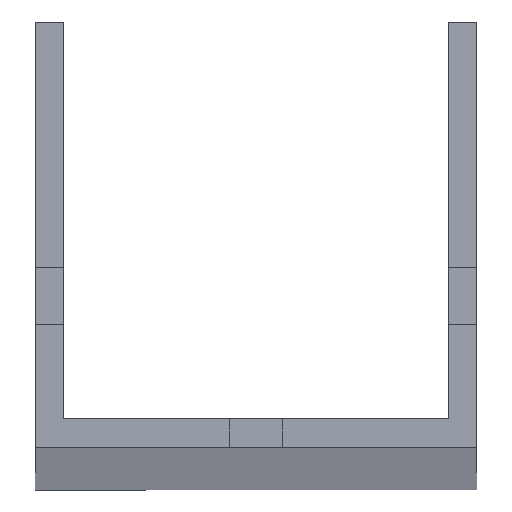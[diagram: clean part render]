
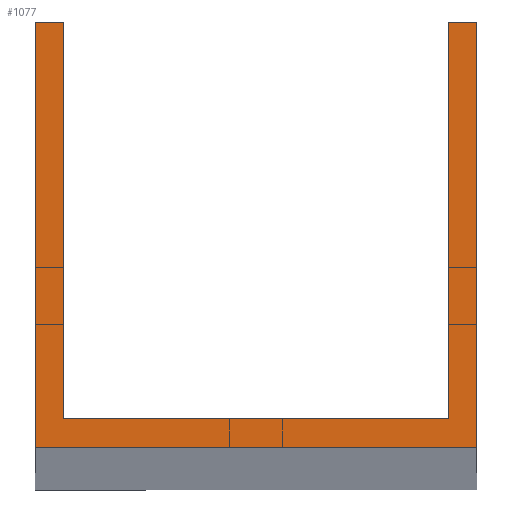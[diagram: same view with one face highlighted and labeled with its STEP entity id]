
A CAD part, top view. The second image highlights one B-rep face of the part: STEP entity #1077.
In plain terms, the highlighted planar face has unit normal (0, 0, 1).
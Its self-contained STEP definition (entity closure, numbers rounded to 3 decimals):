
#37 = VERTEX_POINT ( 'NONE', #747 ) ;
#58 = EDGE_CURVE ( 'NONE', #750, #230, #517, .T. ) ;
#74 = DIRECTION ( 'NONE',  ( 1., 0., 0. ) ) ;
#81 = VECTOR ( 'NONE', #148, 1000. ) ;
#82 = ORIENTED_EDGE ( 'NONE', *, *, #434, .T. ) ;
#94 = EDGE_CURVE ( 'NONE', #252, #937, #367, .T. ) ;
#96 = VERTEX_POINT ( 'NONE', #197 ) ;
#112 = VECTOR ( 'NONE', #1011, 1000. ) ;
#116 = EDGE_CURVE ( 'NONE', #96, #252, #796, .T. ) ;
#144 = ORIENTED_EDGE ( 'NONE', *, *, #668, .T. ) ;
#145 = CARTESIAN_POINT ( 'NONE',  ( 27., 0., 1500. ) ) ;
#148 = DIRECTION ( 'NONE',  ( -1., 0., 0. ) ) ;
#176 = ORIENTED_EDGE ( 'NONE', *, *, #720, .T. ) ;
#188 = FACE_OUTER_BOUND ( 'NONE', #826, .T. ) ;
#197 = CARTESIAN_POINT ( 'NONE',  ( -23.5, 3.5, 1500. ) ) ;
#208 = VERTEX_POINT ( 'NONE', #145 ) ;
#230 = VERTEX_POINT ( 'NONE', #1051 ) ;
#241 = LINE ( 'NONE', #599, #743 ) ;
#245 = ORIENTED_EDGE ( 'NONE', *, *, #58, .T. ) ;
#248 = CARTESIAN_POINT ( 'NONE',  ( -27., 0., 1500. ) ) ;
#252 = VERTEX_POINT ( 'NONE', #704 ) ;
#292 = DIRECTION ( 'NONE',  ( 0., 0., 1. ) ) ;
#308 = CARTESIAN_POINT ( 'NONE',  ( -27., 52., 1500. ) ) ;
#358 = VECTOR ( 'NONE', #804, 1000. ) ;
#359 = VECTOR ( 'NONE', #628, 1000. ) ;
#367 = LINE ( 'NONE', #638, #652 ) ;
#379 = CARTESIAN_POINT ( 'NONE',  ( -27., 3.5, 1500. ) ) ;
#391 = VECTOR ( 'NONE', #792, 1000. ) ;
#434 = EDGE_CURVE ( 'NONE', #1031, #208, #241, .T. ) ;
#468 = DIRECTION ( 'NONE',  ( 0., 1., 0. ) ) ;
#489 = LINE ( 'NONE', #501, #81 ) ;
#501 = CARTESIAN_POINT ( 'NONE',  ( -27., 52., 1500. ) ) ;
#517 = LINE ( 'NONE', #308, #112 ) ;
#546 = CARTESIAN_POINT ( 'NONE',  ( 27., 52., 1500. ) ) ;
#558 = CARTESIAN_POINT ( 'NONE',  ( 0., 0., 1500. ) ) ;
#562 = EDGE_CURVE ( 'NONE', #230, #1031, #736, .T. ) ;
#595 = ORIENTED_EDGE ( 'NONE', *, *, #94, .F. ) ;
#599 = CARTESIAN_POINT ( 'NONE',  ( -27., 0., 1500. ) ) ;
#628 = DIRECTION ( 'NONE',  ( 1., 0., 0. ) ) ;
#635 = CARTESIAN_POINT ( 'NONE',  ( -23.5, 52., 1500. ) ) ;
#638 = CARTESIAN_POINT ( 'NONE',  ( 23.5, 52., 1500. ) ) ;
#652 = VECTOR ( 'NONE', #468, 1000. ) ;
#656 = EDGE_CURVE ( 'NONE', #750, #96, #1082, .T. ) ;
#658 = AXIS2_PLACEMENT_3D ( 'NONE', #558, #292, #801 ) ;
#668 = EDGE_CURVE ( 'NONE', #37, #937, #489, .T. ) ;
#704 = CARTESIAN_POINT ( 'NONE',  ( 23.5, 3.5, 1500. ) ) ;
#720 = EDGE_CURVE ( 'NONE', #208, #37, #1069, .T. ) ;
#729 = PLANE ( 'NONE',  #658 ) ;
#736 = LINE ( 'NONE', #917, #391 ) ;
#743 = VECTOR ( 'NONE', #74, 1000. ) ;
#747 = CARTESIAN_POINT ( 'NONE',  ( 27., 52., 1500. ) ) ;
#750 = VERTEX_POINT ( 'NONE', #635 ) ;
#751 = CARTESIAN_POINT ( 'NONE',  ( -23.5, 52., 1500. ) ) ;
#783 = ORIENTED_EDGE ( 'NONE', *, *, #562, .T. ) ;
#792 = DIRECTION ( 'NONE',  ( 0., -1., 0. ) ) ;
#796 = LINE ( 'NONE', #379, #359 ) ;
#801 = DIRECTION ( 'NONE',  ( 1., 0., 0. ) ) ;
#804 = DIRECTION ( 'NONE',  ( 0., 1., 0. ) ) ;
#814 = VECTOR ( 'NONE', #930, 1000. ) ;
#826 = EDGE_LOOP ( 'NONE', ( #1081, #245, #783, #82, #176, #144, #595, #1108 ) ) ;
#917 = CARTESIAN_POINT ( 'NONE',  ( -27., 52., 1500. ) ) ;
#930 = DIRECTION ( 'NONE',  ( 0., -1., 0. ) ) ;
#937 = VERTEX_POINT ( 'NONE', #1117 ) ;
#1011 = DIRECTION ( 'NONE',  ( -1., 0., 0. ) ) ;
#1031 = VERTEX_POINT ( 'NONE', #248 ) ;
#1051 = CARTESIAN_POINT ( 'NONE',  ( -27., 52., 1500. ) ) ;
#1069 = LINE ( 'NONE', #546, #358 ) ;
#1077 = ADVANCED_FACE ( 'NONE', ( #188 ), #729, .T. ) ;
#1081 = ORIENTED_EDGE ( 'NONE', *, *, #656, .F. ) ;
#1082 = LINE ( 'NONE', #751, #814 ) ;
#1108 = ORIENTED_EDGE ( 'NONE', *, *, #116, .F. ) ;
#1117 = CARTESIAN_POINT ( 'NONE',  ( 23.5, 52., 1500. ) ) ;
